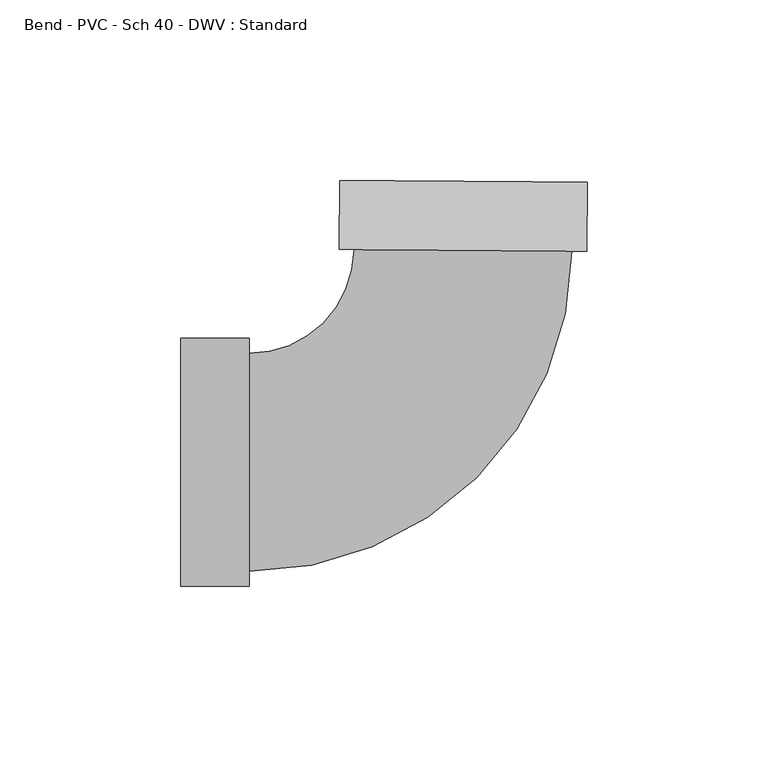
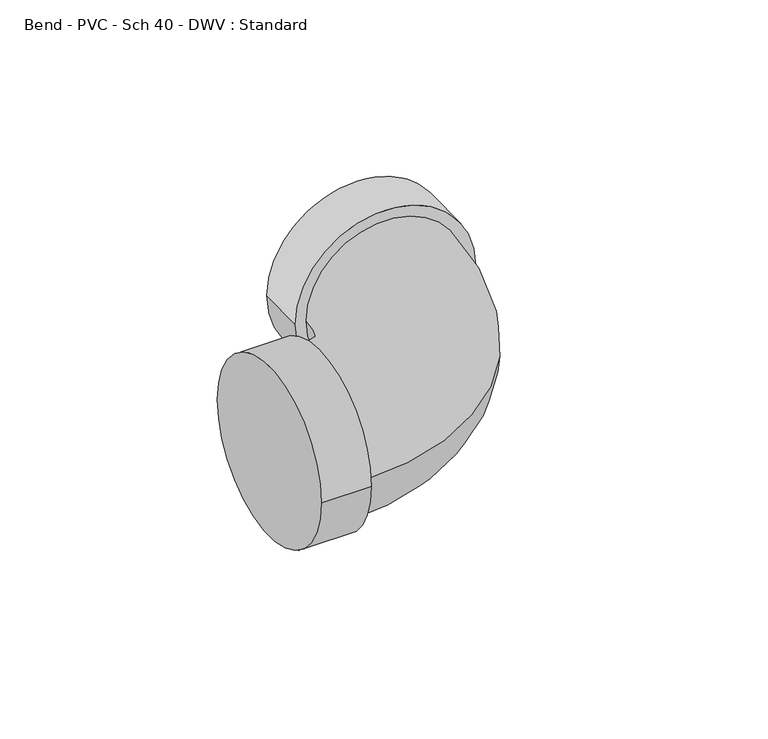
"""IFC4 building model written with IfcOpenShell, lengths in millimetres: pipe fitting geometry, Bend - PVC - Sch 40 - DWV : Standard."""

from ifc_helpers import new_model, si_unit, point, frame, origin, place, context, project, spatial, circle_curve, ellipse_curve, trimmed, source, transform, mapped, element, save
from ifc_brep_helpers import plane_surface, cylinder_surface, revolved_surface, advanced_brep


def bend_pvc_sch_40_dwv_standard_bf33f8de(model_context):
    return source(origin(), model_context, "Body", "AdvancedBrep", [
        advanced_brep(
        [(-77.8002, -34.3154, 0.0), (-77.8002, 34.3154, 0.0), (-58.7502, -34.3154, 0.0), (-58.7502, 34.3154, 0.0), (-58.7502, -30.1625, 0.0), (-58.7502, 30.1625, 0.0), (-29.729055, 58.970719, 0.0), (30.5943094, 58.5264952, 0.0), (34.7470968, 58.4959139, 0.0), (-33.8818424, 59.0013003, 0.0), (34.887378, 77.5453974, 0.0), (-33.7415611, 78.0507838, 0.0)],
        [
            (0, 1, circle_curve(frame((-77.8002, 0.0, 0.0), z_axis=(-1.0, 0.0, 0.0), x_axis=(0.0, 1.0, 0.0)), 34.3154)),
            (1, 0, circle_curve(frame((-77.8002, 0.0, 0.0), z_axis=(-1.0, 0.0, 0.0), x_axis=(0.0, 1.0, 0.0)), 34.3154)),
            (2, 3, circle_curve(frame((-58.7502, 0.0, 0.0), z_axis=(1.0, 0.0, 0.0), x_axis=(0.0, 1.0, 0.0)), 34.3154)),
            (3, 2, circle_curve(frame((-58.7502, 0.0, 0.0), z_axis=(1.0, 0.0, 0.0), x_axis=(0.0, 1.0, 0.0)), 34.3154)),
            (4, 5, circle_curve(frame((-58.7502, 0.0, 0.0), z_axis=(-1.0, 0.0, 0.0), x_axis=(0.0, 1.0, 0.0)), 30.1625)),
            (5, 4, circle_curve(frame((-58.7502, 0.0, 0.0), z_axis=(-1.0, 0.0, 0.0), x_axis=(0.0, 1.0, 0.0)), 30.1625)),
            (0, 2),
            (3, 1),
            (6, 5, circle_curve(frame((-58.7502, 59.1844319, 0.0), z_axis=(0.0, 0.0, -1.0), x_axis=(0.0, -1.0, 0.0)), 29.0219319)),
            (4, 7, circle_curve(frame((-58.7502, 59.1844319, 0.0), z_axis=(0.0, 0.0, 1.0), x_axis=(0.0, -1.0, 0.0)), 89.3469319)),
            (7, 6, circle_curve(frame((0.4326272, 58.7486071, 0.0), z_axis=(-0.007363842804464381, -0.9999728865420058, 0.0), x_axis=(-0.9999728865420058, 0.007363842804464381, 0.0)), 30.1625)),
            (6, 7, circle_curve(frame((0.4326272, 58.7486071, 0.0), z_axis=(-0.007363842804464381, -0.9999728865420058, 0.0), x_axis=(-0.9999728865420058, 0.007363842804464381, 0.0)), 30.1625)),
            (8, 9, circle_curve(frame((0.4326272, 58.7486071, 0.0), z_axis=(-0.0073638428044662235, -0.9999728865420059, 0.0), x_axis=(-0.9999728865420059, 0.0073638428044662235, 0.0)), 34.3154)),
            (9, 8, circle_curve(frame((0.4326272, 58.7486071, 0.0), z_axis=(-0.0073638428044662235, -0.9999728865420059, 0.0), x_axis=(-0.9999728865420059, 0.0073638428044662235, 0.0)), 34.3154)),
            (10, 11, circle_curve(frame((0.5729084, 77.7980906, 0.0), z_axis=(0.0073638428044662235, 0.9999728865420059, 0.0), x_axis=(-0.9999728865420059, 0.0073638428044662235, 0.0)), 34.3154)),
            (11, 10, circle_curve(frame((0.5729084, 77.7980906, 0.0), z_axis=(0.0073638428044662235, 0.9999728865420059, 0.0), x_axis=(-0.9999728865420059, 0.0073638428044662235, 0.0)), 34.3154)),
            (8, 10),
            (11, 9),
        ],
        [
            plane_surface(frame((-77.8002, 0.0, 0.0), z_axis=(-1.0, 0.0, 0.0), x_axis=(0.0, 0.0, 1.0))),
            plane_surface(frame((-58.7502, 0.0, 0.0), z_axis=(1.0, 0.0, 0.0), x_axis=(0.0, 0.0, 1.0))),
            cylinder_surface(frame((-77.8002, 0.0, 0.0), z_axis=(-1.0, 0.0, 0.0), x_axis=(0.0, 1.0, 0.0)), 34.3154),
            revolved_surface(trimmed(ellipse_curve(frame((-58.7502, 0.0, 0.0), z_axis=(-1.0, 0.0, 0.0), x_axis=(0.0, 1.0, 0.0)), 30.1625, 30.1625), [point((-58.7502, -30.1625, 0.0))], [point((-58.7502, 30.1625, 0.0))], True, "CARTESIAN"), (-58.7502, 59.1844319, 0.0), (0.0, 0.0, 1.0)),
            revolved_surface(trimmed(ellipse_curve(frame((-58.7502, 0.0, 0.0), z_axis=(-1.0, 0.0, 0.0), x_axis=(0.0, 1.0, 0.0)), 30.1625, 30.1625), [point((-58.7502, 30.1625, 0.0))], [point((-58.7502, -30.1625, 0.0))], True, "CARTESIAN"), (-58.7502, 59.1844319, 0.0), (0.0, 0.0, 1.0)),
            plane_surface(frame((0.4326272, 58.7486071, 0.0), z_axis=(-0.0073638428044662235, -0.9999728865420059, 0.0), x_axis=(0.0, 0.0, 1.0))),
            plane_surface(frame((0.5729084, 77.7980906, 0.0), z_axis=(0.0073638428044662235, 0.9999728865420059, 0.0), x_axis=(0.0, 0.0, 1.0))),
            cylinder_surface(frame((0.4326272, 58.7486071, 0.0), z_axis=(-0.0073638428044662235, -0.9999728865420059, 0.0), x_axis=(-0.9999728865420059, 0.0073638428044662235, 0.0)), 34.3154),
        ],
        [
            (0, [[1, 2]]),
            (1, [[3, 4], [5, 6]]),
            (2, [[-1, 7, -4, 8]]),
            (2, [[-2, -8, -3, -7]]),
            (3, [[9, -5, 10, 11]]),
            (4, [[-9, 12, -10, -6]]),
            (5, [[13, 14], [-11, -12]]),
            (6, [[15, 16]]),
            (7, [[-13, 17, -16, 18]]),
            (7, [[-14, -18, -15, -17]]),
        ],
    ),
    ])


if __name__ == "__main__":
    model = new_model("IFC4")
    model_context = context("Model", 3, world=origin())
    ifc_project = project(units=[si_unit("LENGTHUNIT", "METRE", prefix="MILLI")], contexts=[model_context])
    site = spatial("IfcSite", under=ifc_project)
    building = spatial("IfcBuilding", under=site)
    placement = place(None, origin())
    bend_pvc_sch_40_dwv_standard_shape = bend_pvc_sch_40_dwv_standard_bf33f8de(model_context)
    element("IfcPipeFitting", 1, ObjectType="Bend - PVC - Sch 40 - DWV : Standard", at=placement, inside=building, context=model_context, shape_type="MappedRepresentation", body=[
        mapped(bend_pvc_sch_40_dwv_standard_shape, transform((0.0, 0.0, 0.0), x_axis=(1.0, 0.0, 0.0), y_axis=(0.0, 1.0, 0.0), z_axis=(0.0, 0.0, 1.0))),
    ])
    save(model, "model.ifc")
